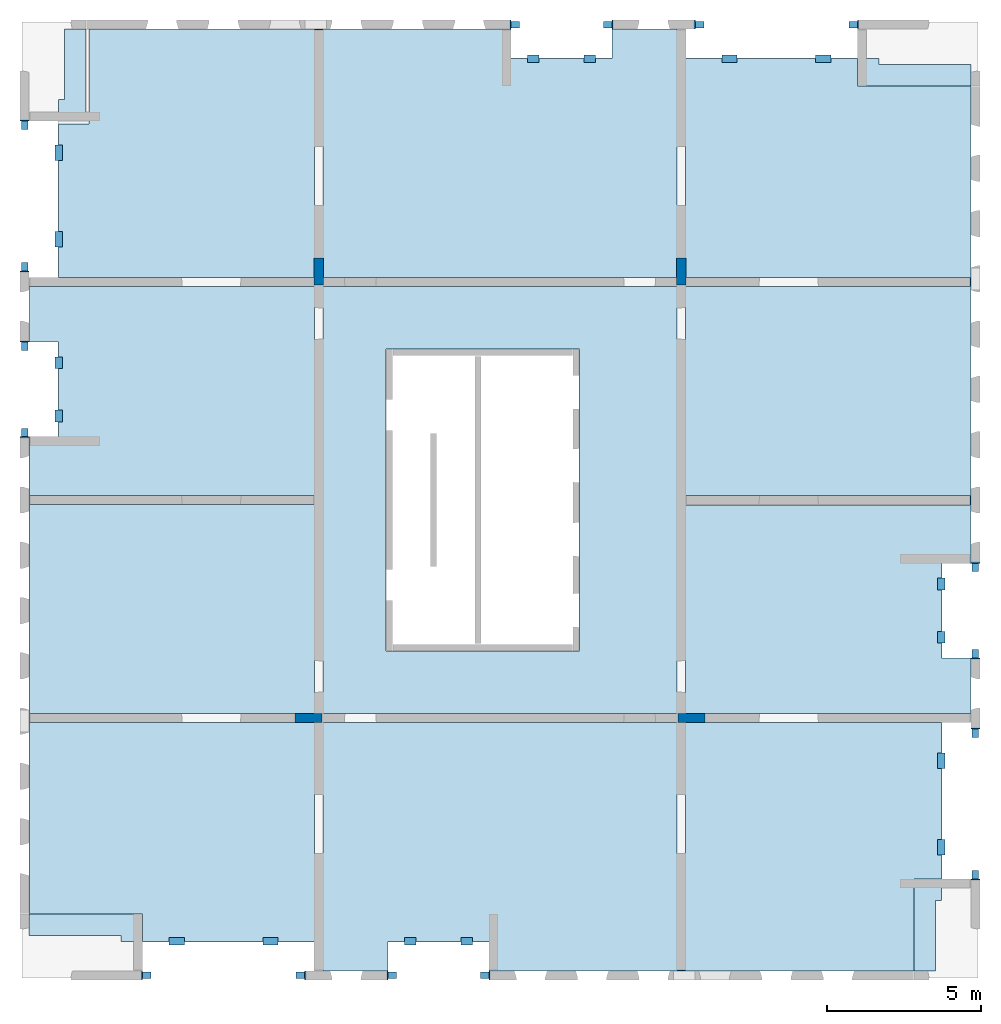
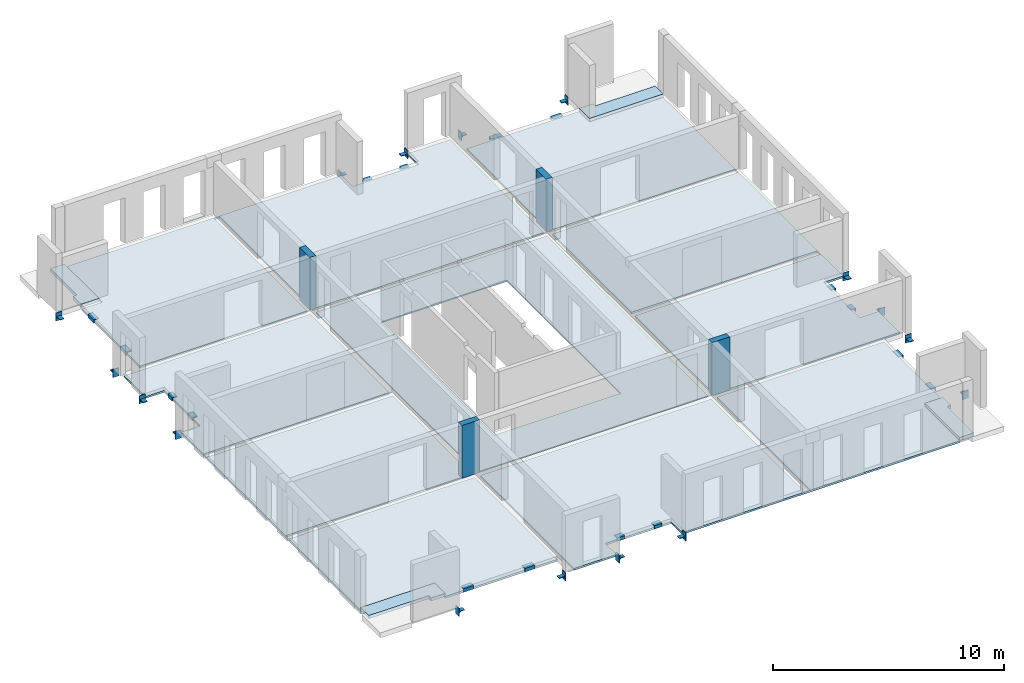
# One storey, part 1 of 5: 32 beams, 9 slabs, 4 columns, 1 opening.
"""IFC2X3 building model written with IfcOpenShell, lengths in millimetres."""

from ifc_helpers import new_model, entity, si_unit, converted_unit, derived_unit, direction, frame, frame_2d, origin, origin_2d_with_axis, place, context, subcontext, project, spatial, polyline, rectangle, outline, extrude, source, transform, mapped, material, layer, layer_set, layer_usage, type_object, type_shapes, element, save


model = new_model("IFC2X3")

# Units and contexts
model_context = context("Model", 3, precision=0.01, world=origin(), true_north=direction((6.12303176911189e-17, 1.0)))
body_context = subcontext(model_context, "Body", "Model", "MODEL_VIEW")
ifc_project = project(units=[si_unit("LENGTHUNIT", "METRE", prefix="MILLI"), si_unit("AREAUNIT", "SQUARE_METRE"), si_unit("VOLUMEUNIT", "CUBIC_METRE"), converted_unit("PLANEANGLEUNIT", "DEGREE", entity("IfcRatioMeasure", 0.0174532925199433), si_unit("PLANEANGLEUNIT", "RADIAN"), dimensions=[0, 0, 0, 0, 0, 0, 0]), si_unit("MASSUNIT", "GRAM", prefix="KILO"), derived_unit("MASSDENSITYUNIT", [(si_unit("MASSUNIT", "GRAM", prefix="KILO"), 1), (si_unit("LENGTHUNIT", "METRE"), -3)]), si_unit("TIMEUNIT", "SECOND"), si_unit("FREQUENCYUNIT", "HERTZ"), si_unit("THERMODYNAMICTEMPERATUREUNIT", "DEGREE_CELSIUS"), derived_unit("THERMALTRANSMITTANCEUNIT", [(si_unit("MASSUNIT", "GRAM", prefix="KILO"), 1), (si_unit("THERMODYNAMICTEMPERATUREUNIT", "KELVIN"), -1), (si_unit("TIMEUNIT", "SECOND"), -3)]), derived_unit("VOLUMETRICFLOWRATEUNIT", [(si_unit("LENGTHUNIT", "METRE"), 3), (si_unit("TIMEUNIT", "SECOND"), -1)]), si_unit("ELECTRICCURRENTUNIT", "AMPERE"), si_unit("ELECTRICVOLTAGEUNIT", "VOLT"), si_unit("POWERUNIT", "WATT"), si_unit("FORCEUNIT", "NEWTON", prefix="KILO"), si_unit("ILLUMINANCEUNIT", "LUX"), si_unit("LUMINOUSFLUXUNIT", "LUMEN"), si_unit("LUMINOUSINTENSITYUNIT", "CANDELA"), derived_unit("USERDEFINED", [(si_unit("MASSUNIT", "GRAM", prefix="KILO"), -1), (si_unit("LENGTHUNIT", "METRE"), -2), (si_unit("TIMEUNIT", "SECOND"), 3), (si_unit("LUMINOUSFLUXUNIT", "LUMEN"), 1)]), derived_unit("LINEARVELOCITYUNIT", [(si_unit("LENGTHUNIT", "METRE"), 1), (si_unit("TIMEUNIT", "SECOND"), -1)]), si_unit("PRESSUREUNIT", "PASCAL"), derived_unit("USERDEFINED", [(si_unit("LENGTHUNIT", "METRE"), -2), (si_unit("MASSUNIT", "GRAM", prefix="KILO"), 1), (si_unit("TIMEUNIT", "SECOND"), -2)])], contexts=[model_context])

# Site, building, storey
site_placement = place(None, origin())
site = spatial("IfcSite", under=ifc_project, at=site_placement, Name="Default", CompositionType="ELEMENT")
building_placement = place(site_placement, origin())
building = spatial("IfcBuilding", under=site, at=building_placement, Name="niet gebruiken", CompositionType="ELEMENT")
storey_placement = place(building_placement, frame((0.0, 0.0, 158760.0)))
storey = spatial("IfcBuildingStorey", under=building, at=storey_placement, Name="51 eenenvijftigste verdieping", CompositionType="ELEMENT", Elevation=158760.0)

# Columns
ifc_material_1 = material(Name="NLRS_f2_beton ihwg")
column_type_1 = type_object("IfcColumnType", Name="300x880", PredefinedType="COLUMN", material=ifc_material_1)
shared_shape_1 = source(origin(), body_context, "Body", "SweptSolid", [
    extrude(rectangle(XDim=879.999999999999, YDim=300.000000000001, at=origin_2d_with_axis()), frame((135850.0, 24940.0, 158670.0), z_axis=(0.0, 0.0, 1.0), x_axis=(0.0, -1.0, 0.0)), (0.0, 0.0, 1.0), 2790.00000000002),
])
type_shapes(column_type_1, [shared_shape_1])
column_1_placement = place(storey_placement, frame((0.0, 0.0, -158760.0)))
element("IfcColumn", 1, at=column_1_placement, inside=storey, type_object=column_type_1, material=ifc_material_1, Name="NLRS_28.11_SCO_TLB_beton kolom ihwg_gen:300x880", ObjectType="300x880", context=body_context, shape_type="MappedRepresentation", body=[
    mapped(shared_shape_1, transform((0.0, 0.0, 0.0), scale=1.0)),
])
column_type_2 = type_object("IfcColumnType", Name="300x880", PredefinedType="COLUMN", material=ifc_material_1)
shared_shape_2 = source(origin(), body_context, "Body", "SweptSolid", [
    extrude(rectangle(XDim=879.999999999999, YDim=300.000000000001, at=origin_2d_with_axis()), frame((147650.0, 24940.0, 158670.0), z_axis=(0.0, 0.0, 1.0), x_axis=(0.0, -1.0, 0.0)), (0.0, 0.0, 1.0), 2790.00000000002),
])
type_shapes(column_type_2, [shared_shape_2])
column_2_placement = place(storey_placement, frame((0.0, 0.0, -158760.0)))
element("IfcColumn", 2, at=column_2_placement, inside=storey, type_object=column_type_2, material=ifc_material_1, Name="NLRS_28.11_SCO_TLB_beton kolom ihwg_gen:300x880", ObjectType="300x880", context=body_context, shape_type="MappedRepresentation", body=[
    mapped(shared_shape_2, transform((0.0, 0.0, 0.0), scale=1.0)),
])
column_type_3 = type_object("IfcColumnType", Name="300x880", PredefinedType="COLUMN", material=ifc_material_1)
shared_shape_3 = source(origin(), body_context, "Body", "SweptSolid", [
    extrude(rectangle(XDim=300.000000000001, YDim=880.000000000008, at=origin_2d_with_axis()), frame((135510.003540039, 10400.0, 158670.0), z_axis=(0.0, 0.0, 1.0), x_axis=(0.0, -1.0, 0.0)), (0.0, 0.0, 1.0), 2790.00000000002),
])
type_shapes(column_type_3, [shared_shape_3])
column_3_placement = place(storey_placement, frame((0.0, 0.0, -158760.0)))
element("IfcColumn", 3, at=column_3_placement, inside=storey, type_object=column_type_3, material=ifc_material_1, Name="NLRS_28.11_SCO_TLB_beton kolom ihwg_gen:300x880", ObjectType="300x880", context=body_context, shape_type="MappedRepresentation", body=[
    mapped(shared_shape_3, transform((0.0, 0.0, 0.0), scale=1.0)),
])
column_type_4 = type_object("IfcColumnType", Name="300x880", PredefinedType="COLUMN", material=ifc_material_1)
shared_shape_4 = source(origin(), body_context, "Body", "SweptSolid", [
    extrude(rectangle(XDim=300.000000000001, YDim=880.000000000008, at=origin_2d_with_axis()), frame((147990.0, 10400.0, 158670.0), z_axis=(0.0, 0.0, 1.0), x_axis=(0.0, -1.0, 0.0)), (0.0, 0.0, 1.0), 2790.00000000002),
])
type_shapes(column_type_4, [shared_shape_4])
column_4_placement = place(storey_placement, frame((0.0, 0.0, -158760.0)))
element("IfcColumn", 4, at=column_4_placement, inside=storey, type_object=column_type_4, material=ifc_material_1, Name="NLRS_28.11_SCO_TLB_beton kolom ihwg_gen:300x880", ObjectType="300x880", context=body_context, shape_type="MappedRepresentation", body=[
    mapped(shared_shape_4, transform((0.0, 0.0, 0.0), scale=1.0)),
])

# Beams
ifc_material_2 = material(Name="NLRS_h2_staal")
beam_type_1 = type_object("IfcBeamType", Name="NLRS_28.11_SF_WPB_stalen schoen 4_gen", PredefinedType="BEAM", material=ifc_material_2)
shared_shape_5 = source(origin(), body_context, "Body", "SweptSolid", [
    extrude(outline(polyline([(-69.4999999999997, -23.0), (8.49999999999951, -23.0), (30.5, -1.0), (30.5000000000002, 47.0), (-69.4999999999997, -23.0)])), frame((-105.0, -109.499999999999, -58.0), z_axis=(1.0, 0.0, 0.0), x_axis=(0.0, -1.0, 0.0)), (0.0, 0.0, 1.0), 35.0),
    extrude(outline(polyline([(-69.4999999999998, -23.0), (8.49999999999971, -23.0), (30.5, -1.0), (30.5000000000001, 47.0), (-69.4999999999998, -23.0)])), frame((70.0, -109.499999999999, -58.0), z_axis=(1.0, 0.0, 0.0), x_axis=(0.0, -1.0, 0.0)), (0.0, 0.0, 1.0), 35.0),
    extrude(rectangle(XDim=300.0, YDim=34.9999999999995, at=origin_2d_with_axis()), frame((0.0, -157.5, -230.0), z_axis=(0.0, 0.0, 1.0), x_axis=(-1.0, 0.0, 0.0)), (0.0, 0.0, 1.0), 420.0),
    extrude(rectangle(XDim=210.000000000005, YDim=274.999999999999, at=origin_2d_with_axis()), frame((0.0, -2.4999999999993, -35.0), z_axis=(0.0, 0.0, 1.0), x_axis=(-1.0, 0.0, 0.0)), (0.0, 0.0, 1.0), 35.0),
])
type_shapes(beam_type_1, [shared_shape_5])
beam_1_placement = place(storey_placement, frame((157230.0, 12500.0, -310.0)))
element("IfcBeam", 5, at=beam_1_placement, inside=storey, type_object=beam_type_1, material=ifc_material_2, Name="NLRS_28.11_SF_WPB_stalen schoen 4_gen:NLRS_28.11_SF_WPB_stalen schoen 4_gen", ObjectType="NLRS_28.11_SF_WPB_stalen schoen 4_gen", context=body_context, shape_type="MappedRepresentation", body=[
    mapped(shared_shape_5, transform((0.0, 0.0, 0.0), scale=1.0)),
])
for number, where, z_axis, x_axis, name in (
    (6, (157230.0, 15300.0, -310.0), (0.0, 0.0, 1.0), (-1.0, 0.0, 0.0), "NLRS_28.11_SF_WPB_stalen schoen 4_gen:NLRS_28.11_SF_WPB_stalen schoen 4_gen"),
    (7, (126270.0, 22500.0, -310.0), (0.0, 0.0, 1.0), (-1.0, 0.0, 0.0), "NLRS_28.11_SF_WPB_stalen schoen 4_gen:NLRS_28.11_SF_WPB_stalen schoen 4_gen"),
):
    element("IfcBeam", number, at=place(storey_placement, frame(where, z_axis=z_axis, x_axis=x_axis)), inside=storey, type_object=beam_type_1, material=ifc_material_2, Name=name, ObjectType="NLRS_28.11_SF_WPB_stalen schoen 4_gen", context=body_context, shape_type="MappedRepresentation", body=[
        mapped(shared_shape_5, transform((0.0, 0.0, 0.0), scale=1.0)),
    ])
beam_2_placement = place(storey_placement, frame((126270.0, 19700.0, -310.0)))
element("IfcBeam", 8, at=beam_2_placement, inside=storey, type_object=beam_type_1, material=ifc_material_2, Name="NLRS_28.11_SF_WPB_stalen schoen 4_gen:NLRS_28.11_SF_WPB_stalen schoen 4_gen", ObjectType="NLRS_28.11_SF_WPB_stalen schoen 4_gen", context=body_context, shape_type="MappedRepresentation", body=[
    mapped(shared_shape_5, transform((0.0, 0.0, 0.0), scale=1.0)),
])
for number, where, z_axis, x_axis, name in (
    (9, (138250.0, 2020.0, -310.0), (0.0, 0.0, 1.0), (0.0, -1.0, 0.0), "NLRS_28.11_SF_WPB_stalen schoen 4_gen:NLRS_28.11_SF_WPB_stalen schoen 4_gen"),
    (10, (141250.0, 2020.0, -310.0), (0.0, 0.0, 1.0), (0.0, 1.0, 0.0), "NLRS_28.11_SF_WPB_stalen schoen 4_gen:NLRS_28.11_SF_WPB_stalen schoen 4_gen"),
    (11, (145250.0, 32980.0, -310.0), (0.0, 0.0, 1.0), (0.0, 1.0, 0.0), "NLRS_28.11_SF_WPB_stalen schoen 4_gen:NLRS_28.11_SF_WPB_stalen schoen 4_gen"),
    (12, (142250.0, 32980.0, -310.0), (0.0, 0.0, 1.0), (0.0, -1.0, 0.0), "NLRS_28.11_SF_WPB_stalen schoen 4_gen:NLRS_28.11_SF_WPB_stalen schoen 4_gen"),
):
    element("IfcBeam", number, at=place(storey_placement, frame(where, z_axis=z_axis, x_axis=x_axis)), inside=storey, type_object=beam_type_1, material=ifc_material_2, Name=name, ObjectType="NLRS_28.11_SF_WPB_stalen schoen 4_gen", context=body_context, shape_type="MappedRepresentation", body=[
        mapped(shared_shape_5, transform((0.0, 0.0, 0.0), scale=1.0)),
    ])
beam_type_2 = type_object("IfcBeamType", Name="NLRS_28.11_SF_WPB_stalen schoen 3_gen", PredefinedType="BEAM", material=ifc_material_2)
shared_shape_6 = source(origin(), body_context, "Body", "SweptSolid", [
    extrude(outline(polyline([(-69.4999999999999, -23.0), (8.49999999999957, -23.0), (30.5000000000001, -1.0), (30.5000000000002, 47.0), (-69.4999999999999, -23.0)])), frame((-105.0, -109.499999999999, -63.0), z_axis=(1.0, 0.0, 0.0), x_axis=(0.0, -1.0, 0.0)), (0.0, 0.0, 1.0), 40.0),
    extrude(outline(polyline([(-69.4999999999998, -23.0), (8.49999999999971, -23.0), (30.5, -1.0), (30.5000000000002, 47.0), (-69.4999999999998, -23.0)])), frame((65.0, -109.499999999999, -63.0), z_axis=(1.0, 0.0, 0.0), x_axis=(0.0, -1.0, 0.0)), (0.0, 0.0, 1.0), 40.0),
    extrude(rectangle(XDim=300.0, YDim=39.9999999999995, at=origin_2d_with_axis()), frame((0.0, -160.0, -230.0), z_axis=(0.0, 0.0, 1.0), x_axis=(-1.0, 0.0, 0.0)), (0.0, 0.0, 1.0), 420.0),
    extrude(rectangle(XDim=210.000000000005, YDim=274.999999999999, at=origin_2d_with_axis()), frame((0.0, -2.49999999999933, -40.0), z_axis=(0.0, 0.0, 1.0), x_axis=(-1.0, 0.0, 0.0)), (0.0, 0.0, 1.0), 39.9999999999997),
])
type_shapes(beam_type_2, [shared_shape_6])
beam_3_placement = place(storey_placement, frame((157230.0, 9900.0, -310.0), z_axis=(0.0, 0.0, 1.0), x_axis=(-1.0, 0.0, 0.0)))
element("IfcBeam", 13, at=beam_3_placement, inside=storey, type_object=beam_type_2, material=ifc_material_2, Name="NLRS_28.11_SF_WPB_stalen schoen 3_gen:NLRS_28.11_SF_WPB_stalen schoen 3_gen", ObjectType="NLRS_28.11_SF_WPB_stalen schoen 3_gen", context=body_context, shape_type="MappedRepresentation", body=[
    mapped(shared_shape_6, transform((0.0, 0.0, 0.0), scale=1.0)),
])
for number, where, name in (
    (14, (157230.0, 5300.0, -310.0), "NLRS_28.11_SF_WPB_stalen schoen 3_gen:NLRS_28.11_SF_WPB_stalen schoen 3_gen"),
    (15, (126270.0, 25100.0, -310.0), "NLRS_28.11_SF_WPB_stalen schoen 3_gen:NLRS_28.11_SF_WPB_stalen schoen 3_gen"),
):
    element("IfcBeam", number, at=place(storey_placement, frame(where)), inside=storey, type_object=beam_type_2, material=ifc_material_2, Name=name, ObjectType="NLRS_28.11_SF_WPB_stalen schoen 3_gen", context=body_context, shape_type="MappedRepresentation", body=[
        mapped(shared_shape_6, transform((0.0, 0.0, 0.0), scale=1.0)),
    ])
for number, where, z_axis, x_axis, name in (
    (16, (126270.0, 29700.0, -310.0), (0.0, 0.0, 1.0), (-1.0, 0.0, 0.0), "NLRS_28.11_SF_WPB_stalen schoen 3_gen:NLRS_28.11_SF_WPB_stalen schoen 3_gen"),
    (17, (135250.0, 2020.0, -310.0), (0.0, 0.0, 1.0), (0.0, 1.0, 0.0), "NLRS_28.11_SF_WPB_stalen schoen 3_gen:NLRS_28.11_SF_WPB_stalen schoen 3_gen"),
    (18, (130250.0, 2020.0, -310.0), (0.0, 0.0, 1.0), (0.0, -1.0, 0.0), "NLRS_28.11_SF_WPB_stalen schoen 3_gen:NLRS_28.11_SF_WPB_stalen schoen 3_gen"),
    (19, (148250.0, 32980.0, -310.0), (0.0, 0.0, 1.0), (0.0, -1.0, 0.0), "NLRS_28.11_SF_WPB_stalen schoen 3_gen:NLRS_28.11_SF_WPB_stalen schoen 3_gen"),
    (20, (153250.0, 32980.0, -310.0), (0.0, 0.0, 1.0), (0.0, 1.0, 0.0), "NLRS_28.11_SF_WPB_stalen schoen 3_gen:NLRS_28.11_SF_WPB_stalen schoen 3_gen"),
):
    element("IfcBeam", number, at=place(storey_placement, frame(where, z_axis=z_axis, x_axis=x_axis)), inside=storey, type_object=beam_type_2, material=ifc_material_2, Name=name, ObjectType="NLRS_28.11_SF_WPB_stalen schoen 3_gen", context=body_context, shape_type="MappedRepresentation", body=[
        mapped(shared_shape_6, transform((0.0, 0.0, 0.0), scale=1.0)),
    ])
beam_type_3 = type_object("IfcBeamType", Name="NLRS_28.11_SF_WPB_stalen handje 7 lang 375_gen:NLRS_28.11_SF_WPB_stalen handje 7_gen", PredefinedType="BEAM")
beam_4_placement = place(storey_placement, frame((156235.125015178, 9255.24886461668, -93.0), z_axis=(0.0, 0.0, 1.0), x_axis=(0.0, -1.0, 0.0)))
element("IfcBeam", 21, at=beam_4_placement, inside=storey, type_object=beam_type_3, material=ifc_material_2, Name="NLRS_28.11_SF_WPB_stalen handje 7 lang 375_gen:NLRS_28.11_SF_WPB_stalen handje 7_gen", ObjectType="NLRS_28.11_SF_WPB_stalen handje 7 lang 375_gen:NLRS_28.11_SF_WPB_stalen handje 7_gen", context=body_context, shape_type="SweptSolid", body=[
    extrude(outline(polyline([(-70.6666666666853, -153.33333333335), (-40.6666666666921, -153.33333333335), (-40.6666666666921, 61.6666666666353), (111.333333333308, 61.6666666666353), (111.333333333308, 91.6666666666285), (-70.6666666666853, 91.6666666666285), (-70.6666666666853, -153.33333333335)])), frame((0.0, -91.6666666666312, -70.6666666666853), z_axis=(1.0, 0.0, 0.0), x_axis=(0.0, 0.0, -1.0)), (0.0, 0.0, 1.0), 500.000000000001),
])
beam_5_placement = place(storey_placement, frame((156235.125015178, 6445.24582437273, -93.0), z_axis=(0.0, 0.0, 1.0), x_axis=(0.0, -1.0, 0.0)))
element("IfcBeam", 22, at=beam_5_placement, inside=storey, type_object=beam_type_3, material=ifc_material_2, Name="NLRS_28.11_SF_WPB_stalen handje 7 lang 375_gen:NLRS_28.11_SF_WPB_stalen handje 7_gen", ObjectType="NLRS_28.11_SF_WPB_stalen handje 7 lang 375_gen:NLRS_28.11_SF_WPB_stalen handje 7_gen", context=body_context, shape_type="SweptSolid", body=[
    extrude(outline(polyline([(-70.6666666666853, -153.33333333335), (-40.6666666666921, -153.33333333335), (-40.6666666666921, 61.6666666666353), (111.333333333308, 61.6666666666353), (111.333333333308, 91.6666666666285), (-70.6666666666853, 91.6666666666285), (-70.6666666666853, -153.33333333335)])), frame((0.0, -91.6666666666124, -70.6666666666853), z_axis=(1.0, 0.0, 0.0), x_axis=(0.0, 0.0, -1.0)), (0.0, 0.0, 1.0), 500.000000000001),
])
beam_6_placement = place(storey_placement, frame((127264.874984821, 25744.7511353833, -93.0), z_axis=(0.0, 0.0, 1.0), x_axis=(0.0, 1.0, 0.0)))
element("IfcBeam", 23, at=beam_6_placement, inside=storey, type_object=beam_type_3, material=ifc_material_2, Name="NLRS_28.11_SF_WPB_stalen handje 7 lang 375_gen:NLRS_28.11_SF_WPB_stalen handje 7_gen", ObjectType="NLRS_28.11_SF_WPB_stalen handje 7 lang 375_gen:NLRS_28.11_SF_WPB_stalen handje 7_gen", context=body_context, shape_type="SweptSolid", body=[
    extrude(outline(polyline([(-70.6666666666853, -153.333333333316), (-40.6666666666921, -153.333333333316), (-40.6666666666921, 61.6666666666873), (111.333333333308, 61.66666666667), (111.333333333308, 91.6666666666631), (-70.6666666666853, 91.6666666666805), (-70.6666666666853, -153.333333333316)])), frame((0.0, -91.6666666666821, -70.6666666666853), z_axis=(1.0, 0.0, 0.0), x_axis=(0.0, 0.0, -1.0)), (0.0, 0.0, 1.0), 500.000000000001),
])
beam_7_placement = place(storey_placement, frame((127264.874984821, 28554.7541756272, -93.0), z_axis=(0.0, 0.0, 1.0), x_axis=(0.0, 1.0, 0.0)))
element("IfcBeam", 24, at=beam_7_placement, inside=storey, type_object=beam_type_3, material=ifc_material_2, Name="NLRS_28.11_SF_WPB_stalen handje 7 lang 375_gen:NLRS_28.11_SF_WPB_stalen handje 7_gen", ObjectType="NLRS_28.11_SF_WPB_stalen handje 7 lang 375_gen:NLRS_28.11_SF_WPB_stalen handje 7_gen", context=body_context, shape_type="SweptSolid", body=[
    extrude(outline(polyline([(-70.6666666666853, -153.333333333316), (-40.6666666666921, -153.333333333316), (-40.6666666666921, 61.6666666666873), (111.333333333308, 61.66666666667), (111.333333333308, 91.6666666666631), (-70.6666666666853, 91.6666666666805), (-70.6666666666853, -153.333333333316)])), frame((0.0, -91.66666666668, -70.6666666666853), z_axis=(1.0, 0.0, 0.0), x_axis=(0.0, 0.0, -1.0)), (0.0, 0.0, 1.0), 500.000000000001),
])
for number, where, z_axis, x_axis, name in (
    (25, (140862.631597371, 3015.23611279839, -93.0), (0.0, 0.0, 1.0), (-1.0, 0.0, 0.0), "NLRS_28.11_SF_WPB_stalen handje 7 lang 375_gen:NLRS_28.11_SF_WPB_stalen handje 7_gen"),
    (26, (139012.628555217, 3015.23611279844, -93.0), (0.0, 0.0, 1.0), (-1.0, 0.0, 0.0), "NLRS_28.11_SF_WPB_stalen handje 7 lang 375_gen:NLRS_28.11_SF_WPB_stalen handje 7_gen"),
):
    element("IfcBeam", number, at=place(storey_placement, frame(where, z_axis=z_axis, x_axis=x_axis)), inside=storey, type_object=beam_type_3, material=ifc_material_2, Name=name, ObjectType="NLRS_28.11_SF_WPB_stalen handje 7 lang 375_gen:NLRS_28.11_SF_WPB_stalen handje 7_gen", context=body_context, shape_type="SweptSolid", body=[
        extrude(outline(polyline([(-70.6666666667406, -153.333333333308), (-40.6666666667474, -153.333333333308), (-40.6666666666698, 61.6666666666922), (111.33333333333, 61.6666666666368), (111.333333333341, 91.6666666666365), (-70.6666666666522, 91.6666666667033), (-70.6666666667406, -153.333333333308)])), frame((0.0, -91.6666666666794, -70.6666666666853), z_axis=(1.0, 0.0, 0.0), x_axis=(0.0, 0.0, -1.0)), (0.0, 0.0, 1.0), 375.000000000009),
    ])
for number, where, z_axis, x_axis, name in (
    (27, (134525.131597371, 3015.23611279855, -93.0), (0.0, 0.0, 1.0), (-1.0, 0.0, 0.0), "NLRS_28.11_SF_WPB_stalen handje 7 lang 375_gen:NLRS_28.11_SF_WPB_stalen handje 7_gen"),
    (28, (131475.128555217, 3015.23611279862, -93.0), (0.0, 0.0, 1.0), (-1.0, 0.0, 0.0), "NLRS_28.11_SF_WPB_stalen handje 7 lang 375_gen:NLRS_28.11_SF_WPB_stalen handje 7_gen"),
):
    element("IfcBeam", number, at=place(storey_placement, frame(where, z_axis=z_axis, x_axis=x_axis)), inside=storey, type_object=beam_type_3, material=ifc_material_2, Name=name, ObjectType="NLRS_28.11_SF_WPB_stalen handje 7 lang 375_gen:NLRS_28.11_SF_WPB_stalen handje 7_gen", context=body_context, shape_type="SweptSolid", body=[
        extrude(outline(polyline([(-70.66666666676, -153.333333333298), (-40.6666666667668, -153.333333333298), (-40.666666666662, 61.6666666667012), (111.333333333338, 61.6666666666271), (111.333333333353, 91.6666666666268), (-70.6666666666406, 91.666666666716), (-70.66666666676, -153.333333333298)])), frame((0.0, -91.6666666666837, -70.6666666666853), z_axis=(1.0, 0.0, 0.0), x_axis=(0.0, 0.0, -1.0)), (0.0, 0.0, 1.0), 500.000000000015),
    ])
for number, where, name in (
    (29, (142637.368402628, 31984.7638872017, -93.0), "NLRS_28.11_SF_WPB_stalen handje 7 lang 375_gen:NLRS_28.11_SF_WPB_stalen handje 7_gen"),
    (30, (144487.371444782, 31984.7638872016, -93.0), "NLRS_28.11_SF_WPB_stalen handje 7 lang 375_gen:NLRS_28.11_SF_WPB_stalen handje 7_gen"),
):
    element("IfcBeam", number, at=place(storey_placement, frame(where)), inside=storey, type_object=beam_type_3, material=ifc_material_2, Name=name, ObjectType="NLRS_28.11_SF_WPB_stalen handje 7 lang 375_gen:NLRS_28.11_SF_WPB_stalen handje 7_gen", context=body_context, shape_type="SweptSolid", body=[
        extrude(outline(polyline([(-70.6666666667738, -153.333333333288), (-40.6666666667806, -153.333333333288), (-40.6666666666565, 61.6666666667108), (111.333333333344, 61.666666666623), (111.333333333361, 91.6666666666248), (-70.6666666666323, 91.6666666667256), (-70.6666666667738, -153.333333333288)])), frame((0.0, -91.6666666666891, -70.6666666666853), z_axis=(1.0, 0.0, 0.0), x_axis=(0.0, 0.0, -1.0)), (0.0, 0.0, 1.0), 375.000000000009),
    ])
for number, where, name in (
    (31, (148974.868402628, 31984.7638872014, -93.0), "NLRS_28.11_SF_WPB_stalen handje 7 lang 375_gen:NLRS_28.11_SF_WPB_stalen handje 7_gen"),
    (32, (152024.871444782, 31984.7638872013, -93.0), "NLRS_28.11_SF_WPB_stalen handje 7 lang 375_gen:NLRS_28.11_SF_WPB_stalen handje 7_gen"),
):
    element("IfcBeam", number, at=place(storey_placement, frame(where)), inside=storey, type_object=beam_type_3, material=ifc_material_2, Name=name, ObjectType="NLRS_28.11_SF_WPB_stalen handje 7 lang 375_gen:NLRS_28.11_SF_WPB_stalen handje 7_gen", context=body_context, shape_type="SweptSolid", body=[
        extrude(outline(polyline([(-70.6666666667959, -153.333333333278), (-40.6666666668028, -153.333333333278), (-40.6666666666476, 61.6666666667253), (111.333333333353, 61.6666666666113), (111.333333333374, 91.6666666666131), (-70.6666666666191, 91.6666666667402), (-70.6666666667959, -153.333333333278)])), frame((0.0, -91.6666666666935, -70.6666666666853), z_axis=(1.0, 0.0, 0.0), x_axis=(0.0, 0.0, -1.0)), (0.0, 0.0, 1.0), 500.000000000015),
    ])
beam_8_placement = place(storey_placement, frame((127265.0, 20047.4902884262, -93.0), z_axis=(0.0, 0.0, 1.0), x_axis=(0.0, 1.0, 0.0)))
element("IfcBeam", 33, at=beam_8_placement, inside=storey, type_object=beam_type_3, material=ifc_material_2, Name="NLRS_28.11_SF_WPB_stalen handje 7 lang 375_gen:NLRS_28.11_SF_WPB_stalen handje 7_gen", ObjectType="NLRS_28.11_SF_WPB_stalen handje 7 lang 375_gen:NLRS_28.11_SF_WPB_stalen handje 7_gen", context=body_context, shape_type="SweptSolid", body=[
    extrude(outline(polyline([(-70.6666666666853, -153.333333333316), (-40.6666666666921, -153.333333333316), (-40.6666666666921, 61.6666666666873), (111.333333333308, 61.66666666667), (111.333333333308, 91.6666666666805), (-70.6666666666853, 91.6666666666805), (-70.6666666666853, -153.333333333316)])), frame((0.0, -91.6666666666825, -70.6666666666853), z_axis=(1.0, 0.0, 0.0), x_axis=(0.0, 0.0, -1.0)), (0.0, 0.0, 1.0), 375.000000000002),
])
beam_9_placement = place(storey_placement, frame((127265.0, 21777.4902884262, -93.0), z_axis=(0.0, 0.0, 1.0), x_axis=(0.0, 1.0, 0.0)))
element("IfcBeam", 34, at=beam_9_placement, inside=storey, type_object=beam_type_3, material=ifc_material_2, Name="NLRS_28.11_SF_WPB_stalen handje 7 lang 375_gen:NLRS_28.11_SF_WPB_stalen handje 7_gen", ObjectType="NLRS_28.11_SF_WPB_stalen handje 7 lang 375_gen:NLRS_28.11_SF_WPB_stalen handje 7_gen", context=body_context, shape_type="SweptSolid", body=[
    extrude(outline(polyline([(-70.6666666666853, -153.33333333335), (-40.6666666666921, -153.33333333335), (-40.6666666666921, 61.6666666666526), (111.333333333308, 61.6666666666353), (111.333333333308, 91.6666666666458), (-70.6666666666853, 91.6666666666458), (-70.6666666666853, -153.33333333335)])), frame((0.0, -91.6666666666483, -70.6666666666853), z_axis=(1.0, 0.0, 0.0), x_axis=(0.0, 0.0, -1.0)), (0.0, 0.0, 1.0), 375.000000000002),
])
beam_10_placement = place(storey_placement, frame((156235.0, 14952.5097115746, -93.0), z_axis=(0.0, 0.0, 1.0), x_axis=(0.0, -1.0, 0.0)))
element("IfcBeam", 35, at=beam_10_placement, inside=storey, type_object=beam_type_3, material=ifc_material_2, Name="NLRS_28.11_SF_WPB_stalen handje 7 lang 375_gen:NLRS_28.11_SF_WPB_stalen handje 7_gen", ObjectType="NLRS_28.11_SF_WPB_stalen handje 7 lang 375_gen:NLRS_28.11_SF_WPB_stalen handje 7_gen", context=body_context, shape_type="SweptSolid", body=[
    extrude(outline(polyline([(-70.6666666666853, -153.333333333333), (-40.6666666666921, -153.333333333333), (-40.6666666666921, 61.66666666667), (111.333333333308, 61.66666666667), (111.333333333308, 91.6666666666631), (-70.6666666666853, 91.6666666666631), (-70.6666666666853, -153.333333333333)])), frame((0.0, -91.6666666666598, -70.6666666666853), z_axis=(1.0, 0.0, 0.0), x_axis=(0.0, 0.0, -1.0)), (0.0, 0.0, 1.0), 375.000000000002),
])
beam_11_placement = place(storey_placement, frame((156235.0, 13222.5097115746, -93.0), z_axis=(0.0, 0.0, 1.0), x_axis=(0.0, -1.0, 0.0)))
element("IfcBeam", 36, at=beam_11_placement, inside=storey, type_object=beam_type_3, material=ifc_material_2, Name="NLRS_28.11_SF_WPB_stalen handje 7 lang 375_gen:NLRS_28.11_SF_WPB_stalen handje 7_gen", ObjectType="NLRS_28.11_SF_WPB_stalen handje 7 lang 375_gen:NLRS_28.11_SF_WPB_stalen handje 7_gen", context=body_context, shape_type="SweptSolid", body=[
    extrude(outline(polyline([(-70.6666666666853, -153.333333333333), (-40.6666666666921, -153.333333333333), (-40.6666666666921, 61.66666666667), (111.333333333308, 61.66666666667), (111.333333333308, 91.6666666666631), (-70.6666666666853, 91.6666666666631), (-70.6666666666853, -153.333333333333)])), frame((0.0, -91.6666666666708, -70.6666666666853), z_axis=(1.0, 0.0, 0.0), x_axis=(0.0, 0.0, -1.0)), (0.0, 0.0, 1.0), 375.000000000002),
])

# Slabs
ifc_layer_1 = layer(ifc_material_1, 170.0)
ifc_layer_set_1 = layer_set([ifc_layer_1], Name="Floor:NLRS_23.21_FL_beton ihwg d=170_gen")
ifc_layer_usage_1 = layer_usage(ifc_layer_set_1, "AXIS3", "POSITIVE", 0.0)
slab_1_placement = place(storey_placement, origin())
element("IfcSlab", 37, at=slab_1_placement, inside=storey, material=ifc_layer_usage_1, Name="Floor:NLRS_23.21_FL_beton ihwg d=170_gen", ObjectType="Floor:NLRS_23.21_FL_beton ihwg d=170_gen", PredefinedType="FLOOR", context=body_context, shape_type="SweptSolid", body=[
    extrude(outline(polyline([(-1230.0, -366.666666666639), (-530.0, -366.666666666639), (-530.0, -166.66666666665), (1760.0, -166.666666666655), (1760.0, 533.333333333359), (-1230.0, 533.333333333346), (-1230.0, -366.666666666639)])), frame((127736.666666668, 31070.0, -90.0), z_axis=(0.0, 0.0, -1.0), x_axis=(0.0, 1.0, 0.0)), (0.0, 0.0, 1.0), 169.999999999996),
])
ifc_layer_usage_2 = layer_usage(ifc_layer_set_1, "AXIS3", "POSITIVE", 0.0)
slab_2_placement = place(storey_placement, origin())
element("IfcSlab", 38, at=slab_2_placement, inside=storey, material=ifc_layer_usage_2, Name="Floor:NLRS_23.21_FL_beton ihwg d=170_gen", ObjectType="Floor:NLRS_23.21_FL_beton ihwg d=170_gen", PredefinedType="FLOOR", context=body_context, shape_type="SweptSolid", body=[
    extrude(outline(polyline([(-1760.0, -533.33333333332), (1230.0, -533.33333333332), (1230.0, 366.666666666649), (530.0, 366.666666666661), (530.0, 166.666666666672), (-1760.0, 166.666666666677), (-1760.0, -533.33333333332)])), frame((155763.333333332, 3930.0, -90.0), z_axis=(0.0, 0.0, -1.0), x_axis=(0.0, 1.0, 0.0)), (0.0, 0.0, 1.0), 169.999999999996),
])
ifc_layer_usage_3 = layer_usage(ifc_layer_set_1, "AXIS3", "POSITIVE", 0.0)
slab_3_placement = place(storey_placement, origin())
element("IfcSlab", 39, at=slab_3_placement, inside=storey, material=ifc_layer_usage_3, Name="Floor:NLRS_23.21_FL_beton ihwg d=170_gen", ObjectType="Floor:NLRS_23.21_FL_beton ihwg d=170_gen", PredefinedType="FLOOR", context=body_context, shape_type="SweptSolid", body=[
    extrude(outline(polyline([(-166.666666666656, -2226.66666666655), (533.333333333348, -2226.66666666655), (533.333333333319, 1463.33333333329), (-366.666666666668, 1463.33333333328), (-366.666666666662, 763.333333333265), (-166.666666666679, 763.333333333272), (-166.666666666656, -2226.66666666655)])), frame((128646.666666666, 3486.66666667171, -90.0), z_axis=(0.0, 0.0, -1.0), x_axis=(0.0, 1.0, 0.0)), (0.0, 0.0, 1.0), 169.999999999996),
])
ifc_layer_usage_4 = layer_usage(ifc_layer_set_1, "AXIS3", "POSITIVE", 0.0)
slab_4_placement = place(storey_placement, origin())
element("IfcSlab", 40, at=slab_4_placement, inside=storey, material=ifc_layer_usage_4, Name="Floor:NLRS_23.21_FL_beton ihwg d=170_gen", ObjectType="Floor:NLRS_23.21_FL_beton ihwg d=170_gen", PredefinedType="FLOOR", context=body_context, shape_type="SweptSolid", body=[
    extrude(outline(polyline([(-533.333333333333, -1463.33333333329), (366.666666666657, -1463.33333333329), (366.666666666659, -763.333333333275), (166.66666666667, -763.333333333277), (166.666666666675, 2226.66666666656), (-533.333333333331, 2226.66666666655), (-533.333333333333, -1463.33333333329)])), frame((154853.333333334, 31513.3333333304, -90.0), z_axis=(0.0, 0.0, -1.0), x_axis=(0.0, 1.0, 0.0)), (0.0, 0.0, 1.0), 169.999999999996),
])

# Slab, opening
ifc_material_3 = material(Name="NLRS_f2_beton prefab")
ifc_layer_2 = layer(ifc_material_3, 60.0)
ifc_layer_set_2 = layer_set([ifc_layer_2], Name="Floor:NLRS_23.21_FL_breedplaat d=60_gen")
ifc_layer_usage_5 = layer_usage(ifc_layer_set_2, "AXIS3", "POSITIVE", 0.0)
slab_5_placement = place(storey_placement, frame((135990.0, 10540.0, -320.0)))
slab_5 = element("IfcSlab", 41, at=slab_5_placement, inside=storey, material=ifc_layer_usage_5, Name="Floor:NLRS_23.21_FL_breedplaat d=60_gen", ObjectType="Floor:NLRS_23.21_FL_breedplaat d=60_gen", PredefinedType="FLOOR", context=body_context, shape_type="SweptSolid", body=[
    extrude(rectangle(XDim=13919.9999999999, YDim=11520.0, at=frame_2d((0.0, 0.0), x_axis=(0.0, -1.0))), frame((5760.0, 6960.0, 60.0), z_axis=(0.0, 0.0, -1.0), x_axis=(-1.0, 0.0, 0.0)), (0.0, 0.0, 1.0), 59.9999999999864),
])
opening_placement = place(slab_5_placement, frame((5200.0, 6960.0, 60.0)))
element("IfcOpeningElement", 42, at=opening_placement, cuts=slab_5, Name="Floor:NLRS_23.21_FL_breedplaat d=60_gen:2", ObjectType="Opening", context=body_context, shape_type="SweptSolid", body=[
    extrude(rectangle(XDim=9820.0, YDim=6299.99999999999, at=origin_2d_with_axis()), frame((0.0, 0.0, 0.0), z_axis=(0.0, 0.0, -1.0), x_axis=(0.0, -1.0, 0.0)), (0.0, 0.0, 1.0), 59.9999999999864),
])

# Slabs
ifc_layer_3 = layer(ifc_material_3, 100.0)
ifc_layer_set_3 = layer_set([ifc_layer_3], Name="Floor:NLRS_23.21_FL_breedplaat d=100_gen")
ifc_layer_usage_6 = layer_usage(ifc_layer_set_3, "AXIS3", "POSITIVE", 0.0)
slab_6_placement = place(storey_placement, frame((126420.0, 2170.0, -360.0)))
element("IfcSlab", 43, at=slab_6_placement, inside=storey, material=ifc_layer_usage_6, Name="Floor:NLRS_23.21_FL_breedplaat d=100_gen", ObjectType="Floor:NLRS_23.21_FL_breedplaat d=100_gen", PredefinedType="FLOOR", context=body_context, shape_type="SweptSolid", body=[
    extrude(outline(polyline([(14380.0, 7240.0), (14380.0, 12240.0), (13380.0, 12240.0), (13380.0, 15330.0), (-360.0, 15330.0), (-360.0, 14380.0), (-3640.0, 14380.0), (-3640.0, 15330.0), (-5760.0, 15330.0), (-5760.0, 7240.0), (5760.0, 7240.0), (5760.0, 15300.0), (6040.0, 15300.0), (6040.0, 7240.0), (14380.0, 7240.0)])), frame((15330.0, 15330.0, 100.0), z_axis=(0.0, 0.0, -1.0), x_axis=(-1.0, 0.0, 0.0)), (0.0, 0.0, 1.0), 100.000000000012),
])
slab_7_placement = place(storey_placement, frame((126420.0, 2170.0, -360.0)))
element("IfcSlab", 44, at=slab_7_placement, inside=storey, material=ifc_layer_usage_6, Name="Floor:NLRS_23.21_FL_breedplaat d=100_gen:2", ObjectType="Floor:NLRS_23.21_FL_breedplaat d=100_gen", PredefinedType="FLOOR", context=body_context, shape_type="SweptSolid", body=[
    extrude(outline(polyline([(15320.0, 2060.0), (14380.0, 2060.0), (14380.0, 5140.0), (15330.0, 5140.0), (15330.0, 6960.0), (6040.0, 6960.0), (6040.0, 140.0), (15300.0, 140.0), (15300.0, -140.0), (6040.0, -140.0), (6040.0, -6960.0), (15300.0, -6960.0), (15300.0, -7240.0), (6040.0, -7240.0), (6040.0, -14380.0), (11640.0, -14380.0), (11640.0, -13480.0), (15320.0, -13480.0), (15320.0, 2060.0)])), frame((15330.0, 15330.0, 100.0), z_axis=(0.0, 0.0, -1.0), x_axis=(-1.0, 0.0, 0.0)), (0.0, 0.0, 1.0), 100.000000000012),
])
slab_8_placement = place(storey_placement, frame((126420.0, 2170.0, -360.0)))
element("IfcSlab", 45, at=slab_8_placement, inside=storey, material=ifc_layer_usage_6, Name="Floor:NLRS_23.21_FL_breedplaat d=100_gen:3", ObjectType="Floor:NLRS_23.21_FL_breedplaat d=100_gen", PredefinedType="FLOOR", context=body_context, shape_type="SweptSolid", body=[
    extrude(outline(polyline([(360.0, -15330.0), (360.0, -14380.0), (3640.0, -14380.0), (3640.0, -15330.0), (5760.0, -15330.0), (5760.0, -7240.0), (-5760.0, -7240.0), (-5760.0, -15300.0), (-6040.0, -15300.0), (-6040.0, -7240.0), (-14380.0, -7240.0), (-14380.0, -12340.0), (-13480.0, -12340.0), (-13480.0, -15330.0), (360.0, -15330.0)])), frame((15330.0, 15330.0, 100.0), z_axis=(0.0, 0.0, -1.0), x_axis=(-1.0, 0.0, 0.0)), (0.0, 0.0, 1.0), 100.000000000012),
])
slab_9_placement = place(storey_placement, frame((126420.0, 2170.0, -360.0)))
element("IfcSlab", 46, at=slab_9_placement, inside=storey, material=ifc_layer_usage_6, Name="Floor:NLRS_23.21_FL_breedplaat d=100_gen:4", ObjectType="Floor:NLRS_23.21_FL_breedplaat d=100_gen", PredefinedType="FLOOR", context=body_context, shape_type="SweptSolid", body=[
    extrude(outline(polyline([(-15330.0, -2060.0), (-14380.0, -2060.0), (-14380.0, -5140.0), (-15330.0, -5140.0), (-15330.0, -6960.0), (-6040.0, -6960.0), (-6040.0, -160.0), (-15300.0, -160.0), (-15300.0, 140.0), (-6040.0, 140.0), (-6040.0, 6960.0), (-15300.0, 6960.0), (-15300.0, 7240.0), (-6040.0, 7240.0), (-6040.0, 14380.0), (-11640.0, 14380.0), (-11640.0, 13480.0), (-15330.0, 13480.0), (-15330.0, -2060.0)])), frame((15330.0, 15330.0, 100.0), z_axis=(0.0, 0.0, -1.0), x_axis=(-1.0, 0.0, 0.0)), (0.0, 0.0, 1.0), 100.000000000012),
])

save(model, "model.ifc")
